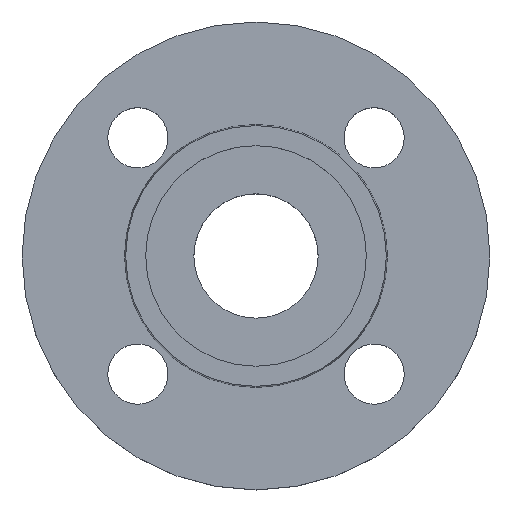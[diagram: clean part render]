
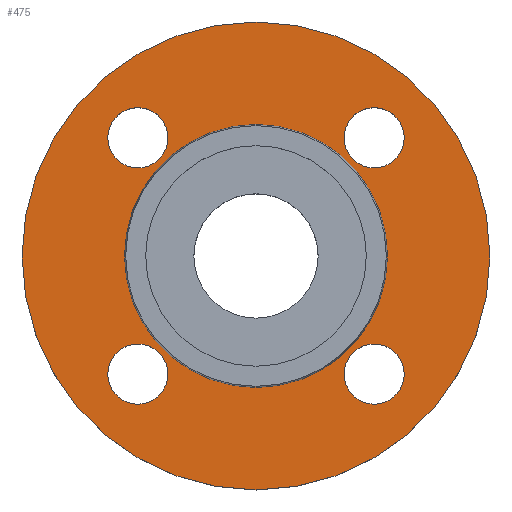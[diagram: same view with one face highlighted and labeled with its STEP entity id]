
A CAD part, top view. The second image highlights one B-rep face of the part: STEP entity #475.
In plain terms, the highlighted planar face has unit normal (0, 0, 1).
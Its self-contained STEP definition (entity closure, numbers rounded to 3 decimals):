
#2 = DIRECTION ( 'NONE',  ( 0., 0., -1. ) ) ;
#3 = EDGE_CURVE ( 'NONE', #8, #27, #700, .T. ) ;
#7 = CARTESIAN_POINT ( 'NONE',  ( -35.355, 35.355, -2. ) ) ;
#8 = VERTEX_POINT ( 'NONE', #626 ) ;
#9 = DIRECTION ( 'NONE',  ( 0., 0., -1. ) ) ;
#14 = ORIENTED_EDGE ( 'NONE', *, *, #366, .T. ) ;
#19 = FACE_BOUND ( 'NONE', #164, .T. ) ;
#27 = VERTEX_POINT ( 'NONE', #704 ) ;
#29 = EDGE_CURVE ( 'NONE', #282, #864, #53, .T. ) ;
#32 = DIRECTION ( 'NONE',  ( -1., 0., 0. ) ) ;
#38 = ORIENTED_EDGE ( 'NONE', *, *, #633, .T. ) ;
#50 = DIRECTION ( 'NONE',  ( 0., 0., -1. ) ) ;
#53 = CIRCLE ( 'NONE', #54, 39.353 ) ;
#54 = AXIS2_PLACEMENT_3D ( 'NONE', #890, #263, #552 ) ;
#56 = CIRCLE ( 'NONE', #568, 70. ) ;
#60 = CARTESIAN_POINT ( 'NONE',  ( 26.355, 35.355, -2. ) ) ;
#68 = VERTEX_POINT ( 'NONE', #60 ) ;
#76 = DIRECTION ( 'NONE',  ( 1., 0., 0. ) ) ;
#77 = VERTEX_POINT ( 'NONE', #828 ) ;
#83 = EDGE_LOOP ( 'NONE', ( #480, #802 ) ) ;
#103 = EDGE_LOOP ( 'NONE', ( #882, #157 ) ) ;
#104 = DIRECTION ( 'NONE',  ( 0., 0., -1. ) ) ;
#121 = CARTESIAN_POINT ( 'NONE',  ( -35.355, 35.355, -2. ) ) ;
#141 = ORIENTED_EDGE ( 'NONE', *, *, #506, .T. ) ;
#150 = CIRCLE ( 'NONE', #153, 9. ) ;
#153 = AXIS2_PLACEMENT_3D ( 'NONE', #645, #2, #283 ) ;
#157 = ORIENTED_EDGE ( 'NONE', *, *, #188, .T. ) ;
#161 = DIRECTION ( 'NONE',  ( 0., 0., 1. ) ) ;
#164 = EDGE_LOOP ( 'NONE', ( #14, #324 ) ) ;
#188 = EDGE_CURVE ( 'NONE', #77, #513, #150, .T. ) ;
#189 = DIRECTION ( 'NONE',  ( -1., 0., 0. ) ) ;
#196 = CIRCLE ( 'NONE', #205, 9. ) ;
#200 = DIRECTION ( 'NONE',  ( 1., 0., 0. ) ) ;
#204 = EDGE_CURVE ( 'NONE', #789, #225, #196, .T. ) ;
#205 = AXIS2_PLACEMENT_3D ( 'NONE', #654, #9, #288 ) ;
#215 = VERTEX_POINT ( 'NONE', #499 ) ;
#221 = CARTESIAN_POINT ( 'NONE',  ( -70., 0., -2. ) ) ;
#222 = EDGE_LOOP ( 'NONE', ( #38, #141 ) ) ;
#225 = VERTEX_POINT ( 'NONE', #724 ) ;
#229 = FACE_OUTER_BOUND ( 'NONE', #83, .T. ) ;
#239 = CARTESIAN_POINT ( 'NONE',  ( 44.355, -35.355, -2. ) ) ;
#257 = CIRCLE ( 'NONE', #258, 9. ) ;
#258 = AXIS2_PLACEMENT_3D ( 'NONE', #557, #829, #200 ) ;
#263 = DIRECTION ( 'NONE',  ( 0., 0., -1. ) ) ;
#268 = CARTESIAN_POINT ( 'NONE',  ( 39.353, 0., -2. ) ) ;
#282 = VERTEX_POINT ( 'NONE', #268 ) ;
#283 = DIRECTION ( 'NONE',  ( 1., 0., 0. ) ) ;
#285 = EDGE_CURVE ( 'NONE', #513, #77, #257, .T. ) ;
#286 = DIRECTION ( 'NONE',  ( 0., 0., -1. ) ) ;
#288 = DIRECTION ( 'NONE',  ( 1., 0., 0. ) ) ;
#296 = FACE_BOUND ( 'NONE', #727, .T. ) ;
#304 = AXIS2_PLACEMENT_3D ( 'NONE', #380, #676, #32 ) ;
#313 = CARTESIAN_POINT ( 'NONE',  ( 35.355, 35.355, -2. ) ) ;
#324 = ORIENTED_EDGE ( 'NONE', *, *, #204, .T. ) ;
#329 = DIRECTION ( 'NONE',  ( 1., 0., 0. ) ) ;
#331 = AXIS2_PLACEMENT_3D ( 'NONE', #421, #717, #76 ) ;
#333 = CIRCLE ( 'NONE', #334, 9. ) ;
#334 = AXIS2_PLACEMENT_3D ( 'NONE', #7, #286, #575 ) ;
#353 = CARTESIAN_POINT ( 'NONE',  ( -44.355, -35.355, -2. ) ) ;
#355 = CARTESIAN_POINT ( 'NONE',  ( 44.355, 35.355, -2. ) ) ;
#358 = ORIENTED_EDGE ( 'NONE', *, *, #383, .T. ) ;
#366 = EDGE_CURVE ( 'NONE', #225, #789, #564, .T. ) ;
#369 = VERTEX_POINT ( 'NONE', #355 ) ;
#380 = CARTESIAN_POINT ( 'NONE',  ( 0., 0., -2. ) ) ;
#382 = ORIENTED_EDGE ( 'NONE', *, *, #29, .T. ) ;
#383 = EDGE_CURVE ( 'NONE', #27, #8, #333, .T. ) ;
#385 = DIRECTION ( 'NONE',  ( -1., 0., 0. ) ) ;
#388 = ORIENTED_EDGE ( 'NONE', *, *, #574, .T. ) ;
#403 = DIRECTION ( 'NONE',  ( 0., 0., -1. ) ) ;
#404 = AXIS2_PLACEMENT_3D ( 'NONE', #795, #161, #438 ) ;
#421 = CARTESIAN_POINT ( 'NONE',  ( -35.355, -35.355, -2. ) ) ;
#430 = EDGE_LOOP ( 'NONE', ( #388, #382 ) ) ;
#438 = DIRECTION ( 'NONE',  ( 1., 0., 0. ) ) ;
#448 = CIRCLE ( 'NONE', #449, 9. ) ;
#449 = AXIS2_PLACEMENT_3D ( 'NONE', #313, #600, #869 ) ;
#458 = VERTEX_POINT ( 'NONE', #221 ) ;
#459 = ORIENTED_EDGE ( 'NONE', *, *, #3, .T. ) ;
#475 = ADVANCED_FACE ( 'NONE', ( #662, #19, #296, #586, #856, #229 ), #511, .T. ) ;
#480 = ORIENTED_EDGE ( 'NONE', *, *, #891, .F. ) ;
#499 = CARTESIAN_POINT ( 'NONE',  ( 70., 0., -2. ) ) ;
#506 = EDGE_CURVE ( 'NONE', #68, #369, #448, .T. ) ;
#510 = CARTESIAN_POINT ( 'NONE',  ( -39.353, 0., -2. ) ) ;
#511 = PLANE ( 'NONE',  #404 ) ;
#513 = VERTEX_POINT ( 'NONE', #239 ) ;
#544 = CARTESIAN_POINT ( 'NONE',  ( 0., 0., -2. ) ) ;
#552 = DIRECTION ( 'NONE',  ( -1., 0., 0. ) ) ;
#557 = CARTESIAN_POINT ( 'NONE',  ( 35.355, -35.355, -2. ) ) ;
#564 = CIRCLE ( 'NONE', #331, 9. ) ;
#566 = CIRCLE ( 'NONE', #567, 39.353 ) ;
#567 = AXIS2_PLACEMENT_3D ( 'NONE', #743, #104, #385 ) ;
#568 = AXIS2_PLACEMENT_3D ( 'NONE', #544, #821, #189 ) ;
#574 = EDGE_CURVE ( 'NONE', #864, #282, #566, .T. ) ;
#575 = DIRECTION ( 'NONE',  ( 1., 0., 0. ) ) ;
#586 = FACE_BOUND ( 'NONE', #222, .T. ) ;
#600 = DIRECTION ( 'NONE',  ( 0., 0., -1. ) ) ;
#626 = CARTESIAN_POINT ( 'NONE',  ( -44.355, 35.355, -2. ) ) ;
#633 = EDGE_CURVE ( 'NONE', #369, #68, #671, .T. ) ;
#645 = CARTESIAN_POINT ( 'NONE',  ( 35.355, -35.355, -2. ) ) ;
#654 = CARTESIAN_POINT ( 'NONE',  ( -35.355, -35.355, -2. ) ) ;
#662 = FACE_BOUND ( 'NONE', #103, .T. ) ;
#671 = CIRCLE ( 'NONE', #820, 9. ) ;
#676 = DIRECTION ( 'NONE',  ( 0., 0., -1. ) ) ;
#689 = AXIS2_PLACEMENT_3D ( 'NONE', #121, #403, #703 ) ;
#693 = CARTESIAN_POINT ( 'NONE',  ( 35.355, 35.355, -2. ) ) ;
#696 = EDGE_CURVE ( 'NONE', #458, #215, #56, .T. ) ;
#700 = CIRCLE ( 'NONE', #689, 9. ) ;
#703 = DIRECTION ( 'NONE',  ( 1., 0., 0. ) ) ;
#704 = CARTESIAN_POINT ( 'NONE',  ( -26.355, 35.355, -2. ) ) ;
#708 = CIRCLE ( 'NONE', #304, 70. ) ;
#717 = DIRECTION ( 'NONE',  ( 0., 0., -1. ) ) ;
#724 = CARTESIAN_POINT ( 'NONE',  ( -26.355, -35.355, -2. ) ) ;
#727 = EDGE_LOOP ( 'NONE', ( #358, #459 ) ) ;
#743 = CARTESIAN_POINT ( 'NONE',  ( 0., 0., -2. ) ) ;
#789 = VERTEX_POINT ( 'NONE', #353 ) ;
#795 = CARTESIAN_POINT ( 'NONE',  ( 39.353, 0., -2. ) ) ;
#802 = ORIENTED_EDGE ( 'NONE', *, *, #696, .F. ) ;
#820 = AXIS2_PLACEMENT_3D ( 'NONE', #693, #50, #329 ) ;
#821 = DIRECTION ( 'NONE',  ( 0., 0., -1. ) ) ;
#828 = CARTESIAN_POINT ( 'NONE',  ( 26.355, -35.355, -2. ) ) ;
#829 = DIRECTION ( 'NONE',  ( 0., 0., -1. ) ) ;
#856 = FACE_BOUND ( 'NONE', #430, .T. ) ;
#864 = VERTEX_POINT ( 'NONE', #510 ) ;
#869 = DIRECTION ( 'NONE',  ( 1., 0., 0. ) ) ;
#882 = ORIENTED_EDGE ( 'NONE', *, *, #285, .T. ) ;
#890 = CARTESIAN_POINT ( 'NONE',  ( 0., 0., -2. ) ) ;
#891 = EDGE_CURVE ( 'NONE', #215, #458, #708, .T. ) ;
